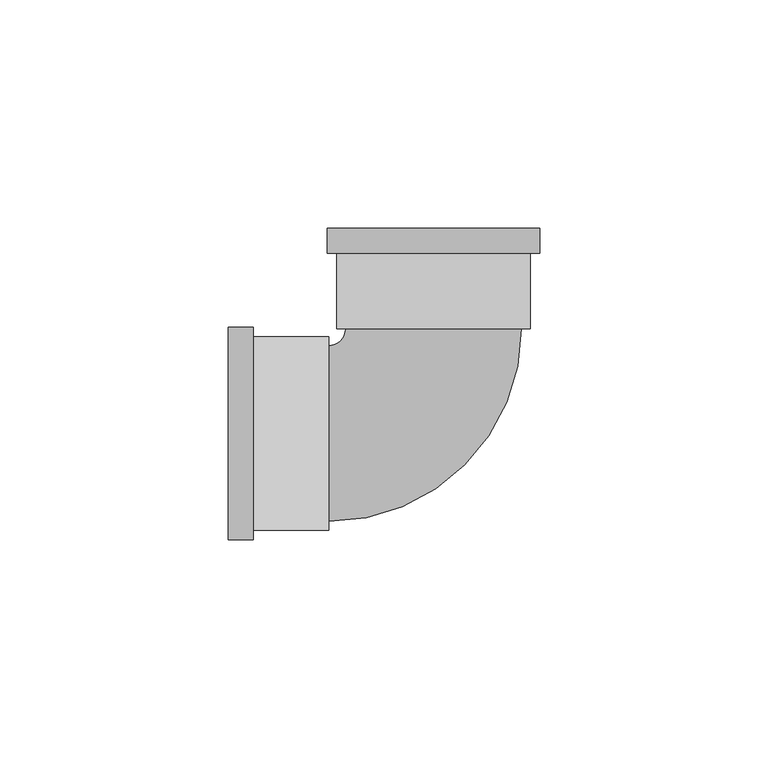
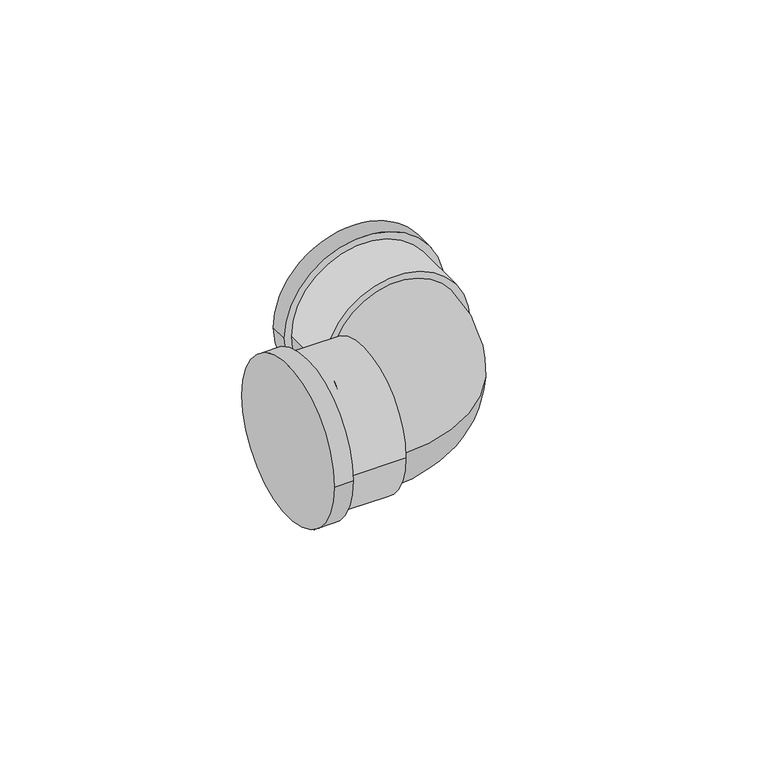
"""IFC4 building model written with IfcOpenShell, lengths in millimetres: pipe fitting geometry, Cotovelo - PVC - CW : Padrão."""

from ifc_helpers import new_model, si_unit, point, frame, origin, place, context, project, spatial, circle_curve, ellipse_curve, trimmed, source, transform, mapped, element, save
from ifc_brep_helpers import plane_surface, cylinder_surface, revolved_surface, advanced_brep


def pipe_fitting_8af41acb(model_context):
    return source(origin(), model_context, "Body", "AdvancedBrep", [
        advanced_brep(
        [(-45.0002719, -23.2925, 0.0), (-45.0002719, 23.2925, 0.0), (-39.5002719, -23.2925, 0.0), (-39.5002719, 23.2925, 0.0), (-39.5002719, -21.175, 0.0), (-39.5002719, 21.175, 0.0), (-23.0002719, 21.175, 0.0), (-23.0002719, -21.175, 0.0), (-23.0002719, -19.25, 0.0), (-23.0002719, 19.25, 0.0), (-19.2502719, 23.0000443, 0.0), (19.2497281, 23.0004994, 0.0), (21.1747281, 23.0005221, 0.0), (-21.1752719, 23.0000216, 0.0), (-23.2930319, 44.9999965, 0.0), (23.2919681, 45.0005472, 0.0), (21.1745331, 39.5005221, 0.0), (-21.1754669, 39.5000216, 0.0), (-23.2929669, 39.4999965, 0.0), (23.2920331, 39.5005472, 0.0)],
        [
            (0, 1, circle_curve(frame((-45.0002719, 0.0, 0.0), z_axis=(-1.0, 0.0, 0.0), x_axis=(0.0, 1.0, 0.0)), 23.2925)),
            (1, 0, circle_curve(frame((-45.0002719, 0.0, 0.0), z_axis=(-1.0, 0.0, 0.0), x_axis=(0.0, 1.0, 0.0)), 23.2925)),
            (2, 3, circle_curve(frame((-39.5002719, 0.0, 0.0), z_axis=(1.0, 0.0, 0.0), x_axis=(0.0, 1.0, 0.0)), 23.2925)),
            (3, 2, circle_curve(frame((-39.5002719, 0.0, 0.0), z_axis=(1.0, 0.0, 0.0), x_axis=(0.0, 1.0, 0.0)), 23.2925)),
            (4, 5, circle_curve(frame((-39.5002719, 0.0, 0.0), z_axis=(-1.0, 0.0, 0.0), x_axis=(0.0, -1.0, 0.0)), 21.175)),
            (5, 4, circle_curve(frame((-39.5002719, 0.0, 0.0), z_axis=(-1.0, 0.0, 0.0), x_axis=(0.0, -1.0, 0.0)), 21.175)),
            (0, 2),
            (3, 1),
            (6, 7, circle_curve(frame((-23.0002719, 0.0, 0.0), z_axis=(1.0, 0.0, 0.0), x_axis=(0.0, -1.0, 0.0)), 21.175)),
            (7, 6, circle_curve(frame((-23.0002719, 0.0, 0.0), z_axis=(1.0, 0.0, 0.0), x_axis=(0.0, -1.0, 0.0)), 21.175)),
            (8, 9, circle_curve(frame((-23.0002719, 0.0, 0.0), z_axis=(-1.0, 0.0, 0.0), x_axis=(0.0, 1.0, 0.0)), 19.25)),
            (9, 8, circle_curve(frame((-23.0002719, 0.0, 0.0), z_axis=(-1.0, 0.0, 0.0), x_axis=(0.0, 1.0, 0.0)), 19.25)),
            (6, 5),
            (4, 7),
            (10, 9, circle_curve(frame((-23.0002719, 23.0, 0.0), z_axis=(0.0, 0.0, -1.0), x_axis=(0.0, -1.0, 0.0)), 3.75)),
            (8, 11, circle_curve(frame((-23.0002719, 23.0, 0.0), z_axis=(0.0, 0.0, 1.0), x_axis=(0.0, -1.0, 0.0)), 42.25)),
            (11, 10, circle_curve(frame((-0.0002719, 23.0002718, 0.0), z_axis=(1.1819518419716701e-05, -0.9999999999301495, 0.0), x_axis=(-0.9999999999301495, -1.1819518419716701e-05, 0.0)), 19.25)),
            (10, 11, circle_curve(frame((-0.0002719, 23.0002718, 0.0), z_axis=(1.1819518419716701e-05, -0.9999999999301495, 0.0), x_axis=(-0.9999999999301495, -1.1819518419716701e-05, 0.0)), 19.25)),
            (12, 13, circle_curve(frame((-0.0002719, 23.0002718, 0.0), z_axis=(1.1819518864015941e-05, -0.9999999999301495, 0.0), x_axis=(-0.9999999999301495, -1.1819518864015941e-05, 0.0)), 21.175)),
            (13, 12, circle_curve(frame((-0.0002719, 23.0002718, 0.0), z_axis=(1.1819518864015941e-05, -0.9999999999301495, 0.0), x_axis=(-0.9999999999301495, -1.1819518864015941e-05, 0.0)), 21.175)),
            (14, 15, circle_curve(frame((-0.0005319, 45.0002718, 0.0), z_axis=(-1.1819518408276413e-05, 0.9999999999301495, 0.0), x_axis=(0.9999999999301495, 1.1819518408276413e-05, 0.0)), 23.2925)),
            (15, 14, circle_curve(frame((-0.0005319, 45.0002718, 0.0), z_axis=(-1.1819518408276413e-05, 0.9999999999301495, 0.0), x_axis=(0.9999999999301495, 1.1819518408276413e-05, 0.0)), 23.2925)),
            (12, 16),
            (16, 17, circle_curve(frame((-0.0004669, 39.5002718, 0.0), z_axis=(1.1819518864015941e-05, -0.9999999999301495, 0.0), x_axis=(-0.9999999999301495, -1.1819518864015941e-05, 0.0)), 21.175)),
            (17, 13),
            (17, 16, circle_curve(frame((-0.0004669, 39.5002718, 0.0), z_axis=(1.1819518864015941e-05, -0.9999999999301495, 0.0), x_axis=(-0.9999999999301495, -1.1819518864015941e-05, 0.0)), 21.175)),
            (18, 19, circle_curve(frame((-0.0004669, 39.5002718, 0.0), z_axis=(1.1819518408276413e-05, -0.9999999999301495, 0.0), x_axis=(0.9999999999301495, 1.1819518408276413e-05, 0.0)), 23.2925)),
            (19, 18, circle_curve(frame((-0.0004669, 39.5002718, 0.0), z_axis=(1.1819518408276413e-05, -0.9999999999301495, 0.0), x_axis=(0.9999999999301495, 1.1819518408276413e-05, 0.0)), 23.2925)),
            (14, 18),
            (19, 15),
        ],
        [
            plane_surface(frame((-45.0002719, 0.0, 0.0), z_axis=(-1.0, 0.0, 0.0), x_axis=(0.0, 0.0, 1.0))),
            plane_surface(frame((-39.5002719, 0.0, 0.0), z_axis=(1.0, 0.0, 0.0), x_axis=(0.0, 0.0, 1.0))),
            cylinder_surface(frame((-45.0002719, 0.0, 0.0), z_axis=(-1.0, 0.0, 0.0), x_axis=(0.0, 1.0, 0.0)), 23.2925),
            plane_surface(frame((-23.0002719, 0.0, 0.0), z_axis=(1.0, 0.0, 0.0), x_axis=(0.0, 0.0, 1.0))),
            cylinder_surface(frame((-23.0002719, 0.0, 0.0), z_axis=(1.0, 0.0, 0.0), x_axis=(0.0, -1.0, 0.0)), 21.175),
            revolved_surface(trimmed(ellipse_curve(frame((-23.0002719, 0.0, 0.0), z_axis=(-1.0, 0.0, 0.0), x_axis=(0.0, 1.0, 0.0)), 19.25, 19.25), [point((-23.0002719, -19.25, 0.0))], [point((-23.0002719, 19.25, 0.0))], True, "CARTESIAN"), (-23.0002719, 23.0, 0.0), (0.0, 0.0, 1.0)),
            revolved_surface(trimmed(ellipse_curve(frame((-23.0002719, 0.0, 0.0), z_axis=(-1.0, 0.0, 0.0), x_axis=(0.0, 1.0, 0.0)), 19.25, 19.25), [point((-23.0002719, 19.25, 0.0))], [point((-23.0002719, -19.25, 0.0))], True, "CARTESIAN"), (-23.0002719, 23.0, 0.0), (0.0, 0.0, 1.0)),
            plane_surface(frame((-0.0002719, 23.0002718, 0.0), z_axis=(1.1819518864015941e-05, -0.9999999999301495, 0.0), x_axis=(0.0, 0.0, 1.0))),
            plane_surface(frame((-0.0005319, 45.0002718, 0.0), z_axis=(-1.1819518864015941e-05, 0.9999999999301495, 0.0), x_axis=(0.0, 0.0, 1.0))),
            cylinder_surface(frame((-0.0002719, 23.0002718, 0.0), z_axis=(1.1819518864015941e-05, -0.9999999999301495, 0.0), x_axis=(-0.9999999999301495, -1.1819518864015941e-05, 0.0)), 21.175),
            plane_surface(frame((-0.0004669, 39.5002718, 0.0), z_axis=(1.1819518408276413e-05, -0.9999999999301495, 0.0), x_axis=(0.0, 0.0, 1.0))),
            cylinder_surface(frame((-0.0005319, 45.0002718, 0.0), z_axis=(-1.1819518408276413e-05, 0.9999999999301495, 0.0), x_axis=(0.9999999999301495, 1.1819518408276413e-05, 0.0)), 23.2925),
        ],
        [
            (0, [[1, 2]]),
            (1, [[3, 4], [5, 6]]),
            (2, [[-1, 7, -4, 8]]),
            (2, [[-2, -8, -3, -7]]),
            (3, [[9, 10], [11, 12]]),
            (4, [[-9, 13, -5, 14]]),
            (4, [[-10, -14, -6, -13]]),
            (5, [[15, -11, 16, 17]]),
            (6, [[-15, 18, -16, -12]]),
            (7, [[19, 20], [-17, -18]]),
            (8, [[21, 22]]),
            (9, [[-19, 23, 24, 25]]),
            (9, [[-20, -25, 26, -23]]),
            (10, [[27, 28], [-24, -26]]),
            (11, [[-21, 29, -28, 30]]),
            (11, [[-22, -30, -27, -29]]),
        ],
    ),
    ])


if __name__ == "__main__":
    model = new_model("IFC4")
    model_context = context("Model", 3, world=origin())
    ifc_project = project(units=[si_unit("LENGTHUNIT", "METRE", prefix="MILLI")], contexts=[model_context])
    site = spatial("IfcSite", under=ifc_project)
    building = spatial("IfcBuilding", under=site)
    placement = place(None, origin())
    pipe_fitting_shape = pipe_fitting_8af41acb(model_context)
    element("IfcPipeFitting", 1, ObjectType="Cotovelo - PVC - CW : Padrão", at=placement, inside=building, context=model_context, shape_type="MappedRepresentation", body=[
        mapped(pipe_fitting_shape, transform((0.0, 0.0, 0.0), x_axis=(1.0, 0.0, 0.0), y_axis=(0.0, 1.0, 0.0), z_axis=(0.0, 0.0, 1.0))),
    ])
    save(model, "model.ifc")
